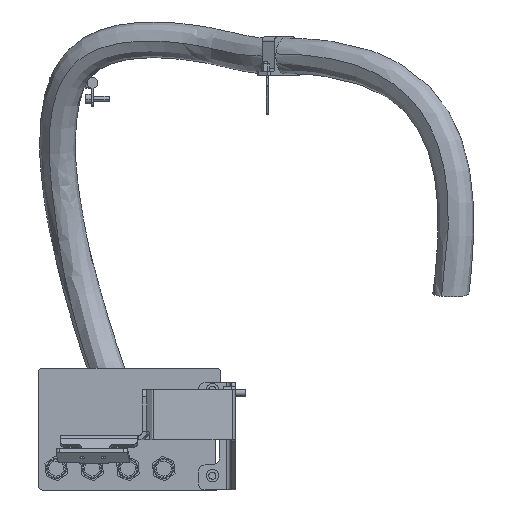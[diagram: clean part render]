
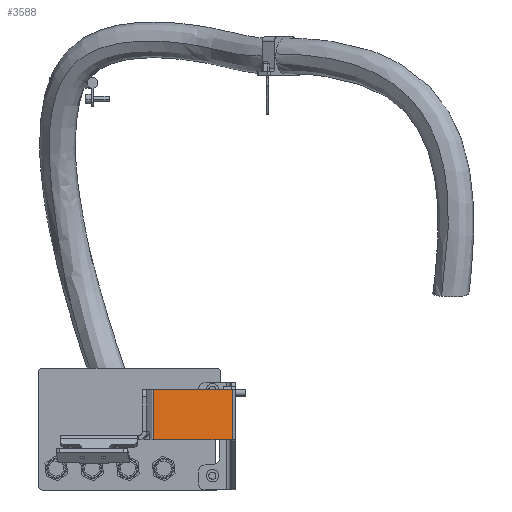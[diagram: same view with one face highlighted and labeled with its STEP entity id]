
A CAD part, left-side view. The second image highlights one B-rep face of the part: STEP entity #3588.
In plain terms, the highlighted planar face has unit normal (-0.766, -0.643, 0).
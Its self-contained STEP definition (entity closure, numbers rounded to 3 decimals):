
#494 = VERTEX_POINT ( 'NONE', #15194 ) ;
#536 = EDGE_CURVE ( 'NONE', #494, #5744, #11525, .T. ) ;
#822 = PLANE ( 'NONE',  #10637 ) ;
#1124 = ORIENTED_EDGE ( 'NONE', *, *, #14358, .T. ) ;
#3245 = DIRECTION ( 'NONE',  ( 0.643, -0.766, 0. ) ) ;
#3549 = DIRECTION ( 'NONE',  ( 0.643, -0.766, 0. ) ) ;
#3588 = ADVANCED_FACE ( 'NONE', ( #4720 ), #822, .T. ) ;
#3604 = LINE ( 'NONE', #12037, #15157 ) ;
#3927 = DIRECTION ( 'NONE',  ( -0.643, 0.766, 0. ) ) ;
#4239 = EDGE_CURVE ( 'NONE', #494, #11759, #3604, .T. ) ;
#4431 = CARTESIAN_POINT ( 'NONE',  ( 120.879, 27.442, 1869. ) ) ;
#4568 = CARTESIAN_POINT ( 'NONE',  ( 247.839, -123.863, 1879. ) ) ;
#4711 = CARTESIAN_POINT ( 'NONE',  ( 213.394, -82.813, 1799. ) ) ;
#4720 = FACE_OUTER_BOUND ( 'NONE', #12094, .T. ) ;
#5744 = VERTEX_POINT ( 'NONE', #4711 ) ;
#6534 = CARTESIAN_POINT ( 'NONE',  ( 247.839, -123.863, 1799. ) ) ;
#6704 = ORIENTED_EDGE ( 'NONE', *, *, #12742, .F. ) ;
#7027 = LINE ( 'NONE', #14995, #14280 ) ;
#8760 = LINE ( 'NONE', #14557, #13313 ) ;
#9172 = VERTEX_POINT ( 'NONE', #14794 ) ;
#10413 = DIRECTION ( 'NONE',  ( -0.766, -0.643, 0. ) ) ;
#10452 = DIRECTION ( 'NONE',  ( 0., 0., -1. ) ) ;
#10637 = AXIS2_PLACEMENT_3D ( 'NONE', #4568, #10413, #3549 ) ;
#10849 = DIRECTION ( 'NONE',  ( 0., 0., 1. ) ) ;
#11525 = LINE ( 'NONE', #6534, #13927 ) ;
#11759 = VERTEX_POINT ( 'NONE', #4431 ) ;
#12037 = CARTESIAN_POINT ( 'NONE',  ( 120.879, 27.442, 1799. ) ) ;
#12094 = EDGE_LOOP ( 'NONE', ( #1124, #13032, #14195, #6704 ) ) ;
#12742 = EDGE_CURVE ( 'NONE', #9172, #5744, #7027, .T. ) ;
#13032 = ORIENTED_EDGE ( 'NONE', *, *, #4239, .F. ) ;
#13313 = VECTOR ( 'NONE', #3927, 1000. ) ;
#13927 = VECTOR ( 'NONE', #3245, 1000. ) ;
#14195 = ORIENTED_EDGE ( 'NONE', *, *, #536, .T. ) ;
#14280 = VECTOR ( 'NONE', #10452, 1000. ) ;
#14358 = EDGE_CURVE ( 'NONE', #9172, #11759, #8760, .T. ) ;
#14557 = CARTESIAN_POINT ( 'NONE',  ( 247.839, -123.863, 1869. ) ) ;
#14794 = CARTESIAN_POINT ( 'NONE',  ( 213.394, -82.813, 1869. ) ) ;
#14995 = CARTESIAN_POINT ( 'NONE',  ( 213.394, -82.813, 1879. ) ) ;
#15157 = VECTOR ( 'NONE', #10849, 1000. ) ;
#15194 = CARTESIAN_POINT ( 'NONE',  ( 120.879, 27.442, 1799. ) ) ;
